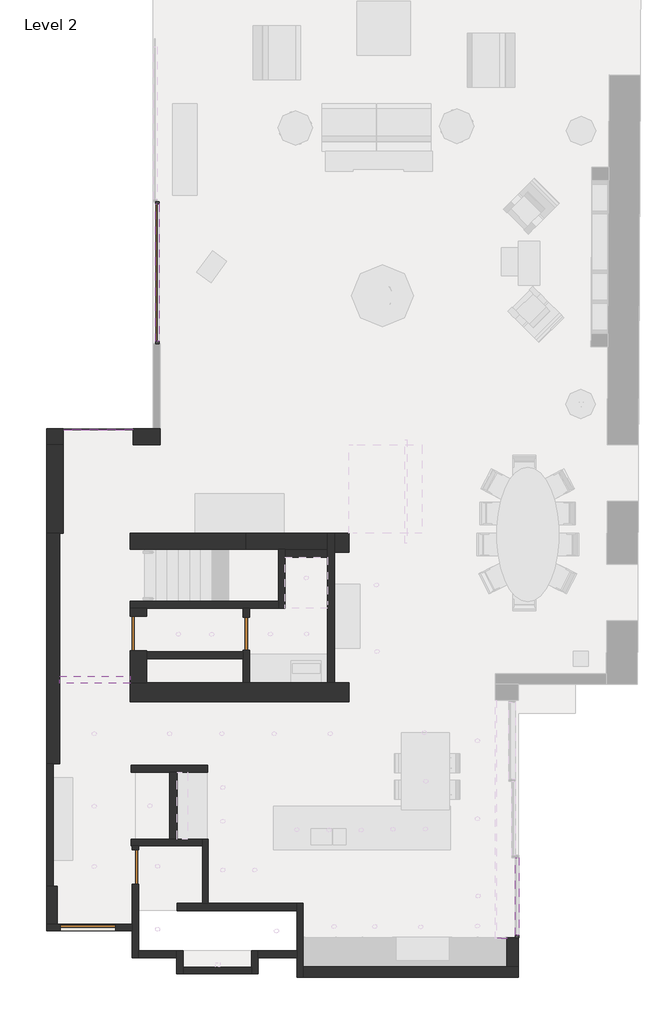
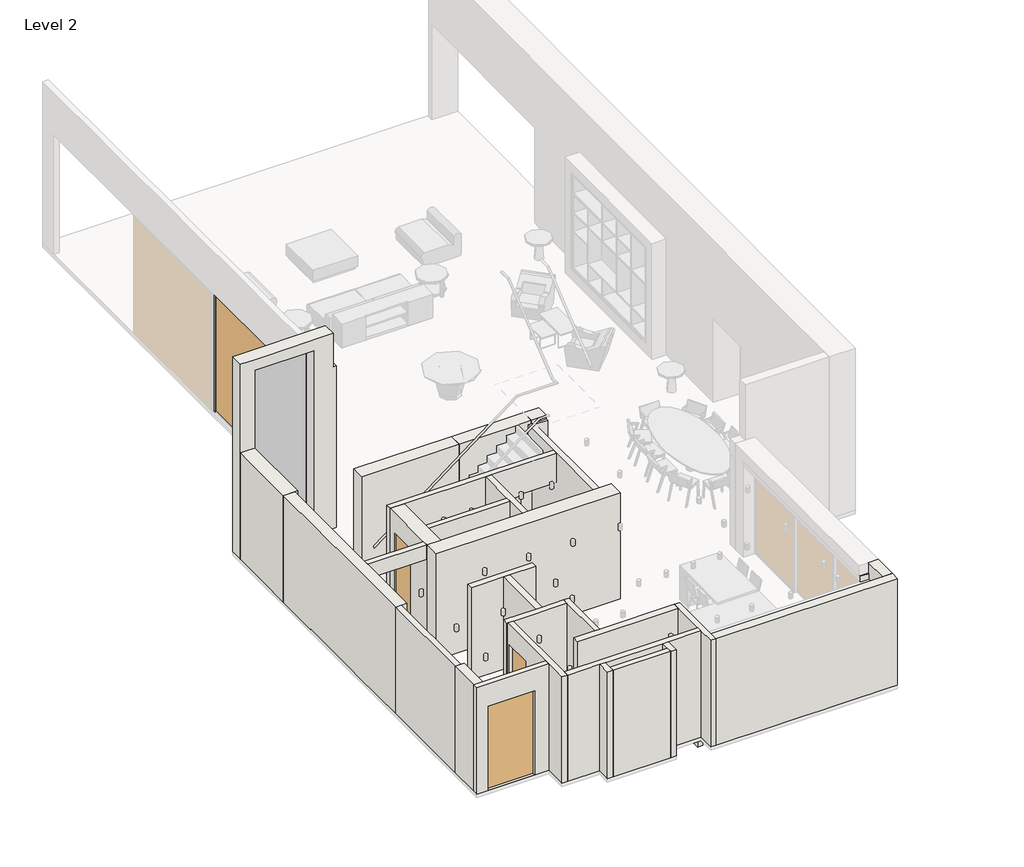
# One storey, part 1 of 3: 32 walls, 9 members, 5 doors, 1 plate.
"""IFC4 building model written with IfcOpenShell, lengths in millimetres."""

from ifc_helpers import new_model, si_unit, frame, origin, place, context, project, spatial, polyline, outline, extrude, faceted_brep, transform, mapped, element, save
from components import door_01_type_3_5bbf0297, door_01_type_4_ac3d37d8, door_01_type_4_c44ae645, door_01_type_5_4e000384, door_curtain_02_door_curtain_02_b25e94dd, rectangular_mullion_5_x_5mm_b523a144, rectangular_mullion_5_x_5mm_49b36daa, rectangular_mullion_50_x_80mm_7a5850f5, rectangular_mullion_50_x_80mm_e20e2da3, rectangular_mullion_50_x_80mm_d9664e05, rectangular_mullion_50_x_80mm_6cbf759c, system_panel_glazed_2_725f9dae

model = new_model("IFC4")

# Units and contexts
model_context = context("Model", 3, world=origin())
ifc_project = project(units=[si_unit("LENGTHUNIT", "METRE", prefix="MILLI")], contexts=[model_context])

# Site, building, storey
site = spatial("IfcSite", under=ifc_project)
building = spatial("IfcBuilding", under=site)
storey = spatial("IfcBuildingStorey", under=building, Name="Level 2", Elevation=3400.0)

# Doors
placement = place(None, origin())
door_01_type_3_shape = door_01_type_3_5bbf0297(model_context)
element("IfcDoor", 1, ObjectType="Door_01 : Type 3", at=placement, inside=storey, context=model_context, shape_type="MappedRepresentation", body=[
    mapped(door_01_type_3_shape, transform((-6950.5022204, -294.4801931, 3400.2529743), x_axis=(-1.0, 0.0, 0.0), y_axis=(0.0, -1.0, 0.0), z_axis=(0.0, 0.0, 1.0))),
])
door_01_type_4_shape = door_01_type_4_ac3d37d8(model_context)
element("IfcDoor", 2, ObjectType="Door_01 : Type 4", at=placement, inside=storey, context=model_context, shape_type="MappedRepresentation", body=[
    mapped(door_01_type_4_shape, transform((-5878.0019919, 1070.5198069, 3400.0), x_axis=(0.0, 1.0, 0.0), y_axis=(-1.0, 0.0, 0.0), z_axis=(0.0, 0.0, 1.0))),
])
door_01_type_4_2_shape = door_01_type_4_c44ae645(model_context)
element("IfcDoor", 3, ObjectType="Door_01 : Type 4", at=placement, inside=storey, context=model_context, shape_type="MappedRepresentation", body=[
    mapped(door_01_type_4_2_shape, transform((-5810.1989418, 6333.2374199, 3400.0), x_axis=(0.0, -1.0, 0.0), y_axis=(1.0, 0.0, 0.0), z_axis=(0.0, 0.0, 1.0))),
])
door_01_type_5_shape = door_01_type_5_4e000384(model_context)
element("IfcDoor", 4, ObjectType="Door_01 : Type 5", at=placement, inside=storey, context=model_context, shape_type="MappedRepresentation", body=[
    mapped(door_01_type_5_shape, transform((-3369.969965, 6328.2374199, 3400.0), x_axis=(0.0, -1.0, 0.0), y_axis=(1.0, 0.0, 0.0), z_axis=(0.0, 0.0, 1.0))),
])
door_curtain_02_door_curtain_02_shape = door_curtain_02_door_curtain_02_b25e94dd(model_context)
element("IfcDoor", 5, ObjectType="Door_Curtain_02 : Door_Curtain_02", at=placement, inside=storey, context=model_context, shape_type="MappedRepresentation", body=[
    mapped(door_curtain_02_door_curtain_02_shape, transform((-5394.2035042, 14468.8264883, 3450.0), x_axis=(0.0, -1.0, 0.0), y_axis=(1.0, 0.0, 0.0), z_axis=(0.0, 0.0, 1.0))),
])

# Members
rectangular_mullion_5_x_5mm_shape = rectangular_mullion_5_x_5mm_b523a144(model_context)
element("IfcMember", 6, ObjectType="Rectangular Mullion : 5 x 5mm", at=placement, inside=storey, context=model_context, shape_type="MappedRepresentation", body=[
    mapped(rectangular_mullion_5_x_5mm_shape, transform((-7495.5019919, 10928.8264883, 3400.0), x_axis=(0.0, 0.0, -1.0), y_axis=(0.0, -1.0, 0.0), z_axis=(-1.0, 0.0, 0.0))),
])
element("IfcMember", 7, ObjectType="Rectangular Mullion : 5 x 5mm", at=placement, inside=storey, context=model_context, shape_type="MappedRepresentation", body=[
    mapped(rectangular_mullion_5_x_5mm_shape, transform((-5925.5019919, 10928.8264883, 8608.580519), x_axis=(0.0, 0.0, 1.0), y_axis=(0.0, -1.0, 0.0), z_axis=(1.0, 0.0, 0.0))),
])
rectangular_mullion_5_x_5mm_2_shape = rectangular_mullion_5_x_5mm_49b36daa(model_context)
element("IfcMember", 8, ObjectType="Rectangular Mullion : 5 x 5mm", at=placement, inside=storey, context=model_context, shape_type="MappedRepresentation", body=[
    mapped(rectangular_mullion_5_x_5mm_2_shape, transform((-7500.5019919, 10928.8264883, 8608.580519), x_axis=(-1.0, 0.0, 0.0), y_axis=(0.0, -1.0, 0.0), z_axis=(0.0, 0.0, 1.0))),
])
element("IfcMember", 9, ObjectType="Rectangular Mullion : 5 x 5mm", at=placement, inside=storey, context=model_context, shape_type="MappedRepresentation", body=[
    mapped(rectangular_mullion_5_x_5mm_2_shape, transform((-5920.5019919, 10928.8264883, 3400.0), x_axis=(1.0, 0.0, 0.0), y_axis=(0.0, -1.0, 0.0), z_axis=(0.0, 0.0, -1.0))),
])
rectangular_mullion_50_x_80mm_shape = rectangular_mullion_50_x_80mm_7a5850f5(model_context)
element("IfcMember", 10, ObjectType="Rectangular Mullion : 50 x 80mm", at=placement, inside=storey, context=model_context, shape_type="MappedRepresentation", body=[
    mapped(rectangular_mullion_50_x_80mm_shape, transform((2718.0901674, -471.7032002, 6115.0), x_axis=(0.0, 0.0, 1.0), y_axis=(-1.0, 0.0, 0.0), z_axis=(0.0, -1.0, 0.0))),
])
rectangular_mullion_50_x_80mm_2_shape = rectangular_mullion_50_x_80mm_e20e2da3(model_context)
element("IfcMember", 11, ObjectType="Rectangular Mullion : 50 x 80mm", at=placement, inside=storey, context=model_context, shape_type="MappedRepresentation", body=[
    mapped(rectangular_mullion_50_x_80mm_2_shape, transform((-5394.2035042, 12918.8264883, 6771.3320339), x_axis=(0.0, 0.0, 1.0), y_axis=(-1.0, 0.0, 0.0), z_axis=(0.0, -1.0, 0.0))),
])
rectangular_mullion_50_x_80mm_3_shape = rectangular_mullion_50_x_80mm_d9664e05(model_context)
element("IfcMember", 12, ObjectType="Rectangular Mullion : 50 x 80mm", at=placement, inside=storey, context=model_context, shape_type="MappedRepresentation", body=[
    mapped(rectangular_mullion_50_x_80mm_3_shape, transform((-5394.2035042, 16068.8264883, 6771.3320339), x_axis=(0.0, 1.0, 0.0), y_axis=(-1.0, 0.0, 0.0), z_axis=(0.0, 0.0, 1.0))),
])
element("IfcMember", 13, ObjectType="Rectangular Mullion : 50 x 80mm", at=placement, inside=storey, context=model_context, shape_type="MappedRepresentation", body=[
    mapped(rectangular_mullion_50_x_80mm_3_shape, transform((-5394.2035042, 12868.8264883, 3400.0), x_axis=(0.0, -1.0, 0.0), y_axis=(-1.0, 0.0, 0.0), z_axis=(0.0, 0.0, -1.0))),
])
rectangular_mullion_50_x_80mm_4_shape = rectangular_mullion_50_x_80mm_6cbf759c(model_context)
element("IfcMember", 14, ObjectType="Rectangular Mullion : 50 x 80mm", at=placement, inside=storey, context=model_context, shape_type="MappedRepresentation", body=[
    mapped(rectangular_mullion_50_x_80mm_4_shape, transform((2718.0901674, -521.7032002, 3400.0), x_axis=(0.0, -1.0, 0.0), y_axis=(-1.0, 0.0, 0.0), z_axis=(0.0, 0.0, -1.0))),
])

# Plate
system_panel_glazed_2_shape = system_panel_glazed_2_725f9dae(model_context)
element("IfcPlate", 15, ObjectType="System Panel : Glazed 2", at=placement, inside=storey, context=model_context, shape_type="MappedRepresentation", body=[
    mapped(system_panel_glazed_2_shape, transform((-6710.5019919, 10928.8264883, 3405.0), x_axis=(1.0, 0.0, 0.0), y_axis=(0.0, 1.0, 0.0), z_axis=(0.0, 0.0, 1.0))),
])

# Walls
element("IfcWall", 16, ObjectType="Generic - Ext 140mm", at=placement, inside=storey, context=model_context, shape_type="Brep", body=[
    faceted_brep([(-2093.0019919, 255.8787458, 6410.0), (-2093.0019919, -1181.1735117, 6410.0), (-2093.0019919, -1421.1735117, 6410.0), (-2093.0019919, -1421.1735117, 3400.0), (-2093.0019919, -1181.1735117, 3400.0), (-2093.0019919, -897.9532002, 3400.0), (-2093.0019919, -897.9532002, 3300.0), (-2093.0019919, -822.9532002, 3300.0), (-2093.0019919, -822.9532002, 3029.4421358), (-2093.0019919, 255.8787458, 3029.4421358), (-2233.0019919, -1421.1735117, 6410.0), (-2233.0019919, -972.9532002, 6410.0), (-2233.0019919, -822.9532002, 6410.0), (-2233.0019919, 85.8787458, 6410.0), (-2233.0019919, 255.8787458, 6410.0), (-2233.0019919, 255.8787458, 3400.0), (-2233.0019919, 255.8787458, 3029.4421358), (-2233.0019919, -822.9532002, 3029.4421358), (-2233.0019919, -822.9532002, 3300.0), (-2233.0019919, -897.9532002, 3300.0), (-2233.0019919, -897.9532002, 3400.0), (-2233.0019919, -972.9532002, 3400.0), (-2233.0019919, -1421.1735117, 3400.0)], [[[0, 1, 2, 3, 4, 5, 6, 7, 8, 9]], [[10, 11, 12, 13, 14, 15, 16, 17, 18, 19, 20, 21, 22]], [[0, 9, 16, 15, 14]], [[3, 2, 10, 22]], [[7, 18, 17, 8]], [[18, 7, 6, 19]], [[16, 9, 8, 17]], [[2, 1, 0, 14, 13, 12, 11, 10]], [[5, 4, 3, 22, 21, 20]], [[5, 20, 19, 6]]]),
])
element("IfcWall", 17, ObjectType="Generic - Ext 150mm", at=placement, inside=storey, context=model_context, shape_type="Brep", body=[
    faceted_brep([(-5953.0019919, -972.9532002, 6410.0), (-5953.0019919, -369.4801931, 6410.0), (-5953.0019919, -219.4801931, 6410.0), (-5953.0019919, 1545.5198069, 6410.0), (-5953.0019919, 1545.5198069, 6000.0), (-5953.0019919, 1545.5198069, 5950.0), (-5953.0019919, 1545.5198069, 3400.0), (-5953.0019919, 1460.5198069, 3400.0), (-5953.0019919, 1460.5198069, 5850.0), (-5953.0019919, 680.5198069, 5850.0), (-5953.0019919, 680.5198069, 3400.0), (-5953.0019919, -219.4801931, 3400.0), (-5953.0019919, -369.4801931, 3400.0), (-5953.0019919, -972.9532002, 3400.0), (-5803.0019919, 1545.5198069, 6410.0), (-5803.0019919, -822.9532002, 6410.0), (-5803.0019919, -972.9532002, 6410.0), (-5803.0019919, -972.9532002, 3400.0), (-5803.0019919, -822.9532002, 3400.0), (-5803.0019919, 680.5198069, 3400.0), (-5803.0019919, 680.5198069, 5850.0), (-5803.0019919, 1460.5198069, 5850.0), (-5803.0019919, 1460.5198069, 3400.0), (-5803.0019919, 1545.5198069, 3400.0), (-5803.0019919, 1545.5198069, 5950.0), (-5803.0019919, 1545.5198069, 6000.0)], [[[0, 1, 2, 3, 4, 5, 6, 7, 8, 9, 10, 11, 12, 13]], [[14, 15, 16, 17, 18, 19, 20, 21, 22, 23, 24, 25]], [[17, 13, 12, 11, 10, 19, 18]], [[6, 23, 22, 7]], [[3, 2, 1, 0, 16, 15, 14]], [[0, 13, 17, 16]], [[3, 14, 25, 24, 23, 6, 5, 4]], [[21, 8, 7, 22]], [[8, 21, 20, 9]], [[9, 20, 19, 10]]]),
])
element("IfcWall", 18, ObjectType="Generic - Ext 150mm", at=placement, inside=storey, context=model_context, shape_type="Brep", body=[
    faceted_brep([(-5803.0019919, -972.9532002, 3400.0), (-4945.5019919, -972.9532002, 3400.0), (-4945.5019919, -972.9532002, 6000.0), (-4795.5019919, -972.9532002, 6000.0), (-3258.0019919, -972.9532002, 6000.0), (-3108.0019919, -972.9532002, 6000.0), (-3108.0019919, -972.9532002, 3400.0), (-2233.0019919, -972.9532002, 3400.0), (-2233.0019919, -972.9532002, 6410.0), (-3108.0019919, -972.9532002, 6410.0), (-3258.0019919, -972.9532002, 6410.0), (-4795.5019919, -972.9532002, 6410.0), (-4945.5019919, -972.9532002, 6410.0), (-5803.0019919, -972.9532002, 6410.0), (-5803.0019919, -822.9532002, 3400.0), (-5803.0019919, -822.9532002, 6410.0), (-2233.0019919, -822.9532002, 6410.0), (-2233.0019919, -822.9532002, 3400.0), (-3108.0019919, -822.9532002, 3400.0), (-3108.0019919, -822.9532002, 6000.0), (-3258.0019919, -822.9532002, 6000.0), (-4795.5019919, -822.9532002, 6000.0), (-4945.5019919, -822.9532002, 6000.0), (-4945.5019919, -822.9532002, 3400.0), (-2233.0019919, -897.9532002, 3400.0)], [[[0, 1, 2, 3, 4, 5, 6, 7, 8, 9, 10, 11, 12, 13]], [[14, 15, 16, 17, 18, 19, 20, 21, 22, 23]], [[0, 13, 15, 14]], [[1, 0, 14, 23]], [[13, 12, 11, 10, 9, 8, 16, 15]], [[5, 4, 3, 2, 22, 21, 20, 19]], [[7, 6, 18, 17, 24]], [[6, 5, 19, 18]], [[2, 1, 23, 22]], [[8, 7, 24, 17, 16]]]),
])
element("IfcWall", 19, ObjectType="Generic - Ext 150mm", at=placement, inside=storey, context=model_context, shape_type="Brep", body=[
    faceted_brep([(-4945.5019919, -822.9532002, 3400.0), (-4945.5019919, -972.9532002, 3400.0), (-4945.5019919, -1339.4801931, 3400.0), (-4945.5019919, -1339.4801931, 6410.0), (-4945.5019919, -972.9532002, 6410.0), (-4945.5019919, -972.9532002, 6000.0), (-4945.5019919, -822.9532002, 6000.0), (-4795.5019919, -822.9532002, 3400.0), (-4795.5019919, -822.9532002, 6000.0), (-4795.5019919, -972.9532002, 6000.0), (-4795.5019919, -972.9532002, 6410.0), (-4795.5019919, -1189.4801931, 6410.0), (-4795.5019919, -1339.4801931, 6410.0), (-4795.5019919, -1339.4801931, 3400.0), (-4795.5019919, -1189.4801931, 3400.0)], [[[0, 1, 2, 3, 4, 5, 6]], [[7, 8, 9, 10, 11, 12, 13, 14]], [[2, 1, 0, 7, 14, 13]], [[4, 3, 12, 11, 10]], [[3, 2, 13, 12]], [[5, 9, 8, 6]], [[0, 6, 8, 7]], [[5, 4, 10, 9]]]),
])
element("IfcWall", 20, ObjectType="Generic - Ext 150mm", at=placement, inside=storey, context=model_context, shape_type="Brep", body=[
    faceted_brep([(-5953.0019919, -219.4801931, 3400.0), (-7640.5019919, -219.4801931, 3400.0), (-7880.5019919, -219.4801931, 3400.0), (-7880.5019919, -219.4801931, 6410.0), (-7640.5019919, -219.4801931, 6410.0), (-5953.0019919, -219.4801931, 6410.0), (-7575.5022204, -219.4801931, 5780.2529743), (-7575.5022204, -219.4801931, 3400.2529743), (-6325.5022204, -219.4801931, 3400.2529743), (-6325.5022204, -219.4801931, 5780.2529743), (-7880.5019919, -369.4801931, 3400.0), (-5953.0019919, -369.4801931, 3400.0), (-5953.0019919, -369.4801931, 6410.0), (-7880.5019919, -369.4801931, 6410.0), (-7575.5022204, -369.4801931, 3400.2529743), (-7575.5022204, -369.4801931, 5780.2529743), (-6325.5022204, -369.4801931, 5780.2529743), (-6325.5022204, -369.4801931, 3400.2529743)], [[[0, 1, 2, 3, 4, 5], [6, 7, 8, 9]], [[10, 11, 12, 13], [14, 15, 16, 17]], [[2, 1, 0, 11, 10]], [[5, 4, 3, 13, 12]], [[0, 5, 12, 11]], [[3, 2, 10, 13]], [[14, 7, 6, 15]], [[15, 6, 9, 16]], [[16, 9, 8, 17]], [[7, 14, 17, 8]]]),
])
element("IfcWall", 21, ObjectType="Generic - Ext 150mm", at=placement, inside=storey, context=model_context, shape_type="SweptSolid", body=[
    extrude(outline(polyline([(-7730.5019919, 3395.5198069), (-7730.5019919, 635.5198069), (-7880.5019919, 635.5198069), (-7880.5019919, 3395.5198069), (-7730.5019919, 3395.5198069)])), frame((0.0, 0.0, 3400.0), z_axis=(0.0, 0.0, 1.0), x_axis=(1.0, 0.0, 0.0)), (0.0, 0.0, 1.0), 3010.0),
])
element("IfcWall", 22, ObjectType="Generic - Ext 150mm", at=placement, inside=storey, context=model_context, shape_type="SweptSolid", body=[
    extrude(outline(polyline([(-3258.0019919, -1339.4801931), (-4795.5019919, -1339.4801931), (-4795.5019919, -1189.4801931), (-3258.0019919, -1189.4801931), (-3258.0019919, -1339.4801931)])), frame((0.0, 0.0, 3400.0), z_axis=(0.0, 0.0, 1.0), x_axis=(1.0, 0.0, 0.0)), (0.0, 0.0, 1.0), 3010.0),
])
element("IfcWall", 23, ObjectType="Generic - Ext 150mm", at=placement, inside=storey, context=model_context, shape_type="Brep", body=[
    faceted_brep([(-3108.0019919, -1339.4801931, 3400.0), (-3108.0019919, -972.9532002, 3400.0), (-3108.0019919, -822.9532002, 3400.0), (-3108.0019919, -822.9532002, 6000.0), (-3108.0019919, -972.9532002, 6000.0), (-3108.0019919, -972.9532002, 6410.0), (-3108.0019919, -1339.4801931, 6410.0), (-3258.0019919, -1339.4801931, 3400.0), (-3258.0019919, -1339.4801931, 6410.0), (-3258.0019919, -1189.4801931, 6410.0), (-3258.0019919, -972.9532002, 6410.0), (-3258.0019919, -972.9532002, 6000.0), (-3258.0019919, -822.9532002, 6000.0), (-3258.0019919, -822.9532002, 3400.0), (-3258.0019919, -1189.4801931, 3400.0)], [[[0, 1, 2, 3, 4, 5, 6]], [[7, 8, 9, 10, 11, 12, 13, 14]], [[2, 1, 0, 7, 14, 13]], [[6, 5, 10, 9, 8]], [[0, 6, 8, 7]], [[11, 4, 3, 12]], [[3, 2, 13, 12]], [[5, 4, 11, 10]]]),
])
element("IfcWall", 24, ObjectType="Generic - Ext 240mm", at=placement, inside=storey, context=model_context, shape_type="Brep", body=[
    faceted_brep([(-7640.5019919, -219.4801931, 3400.0), (-7640.5019919, 635.5198069, 3400.0), (-7640.5019919, 635.5198069, 6410.0), (-7640.5019919, -219.4801931, 6410.0), (-7880.5019919, -219.4801931, 3400.0), (-7880.5019919, -219.4801931, 6410.0), (-7880.5019919, 635.5198069, 6410.0), (-7880.5019919, 635.5198069, 3400.0), (-7730.5019919, 635.5198069, 3400.0), (-7730.5019919, 635.5198069, 6410.0)], [[[0, 1, 2, 3]], [[4, 5, 6, 7]], [[1, 0, 4, 7, 8]], [[2, 1, 8, 7, 6, 9]], [[3, 2, 9, 6, 5]], [[0, 3, 5, 4]]]),
])
element("IfcWall", 25, ObjectType="Generic - Ext 240mm", at=placement, inside=storey, context=model_context, shape_type="Brep", body=[
    faceted_brep([(2763.0901674, -1181.1735117, 3400.0), (2503.0901674, -1181.1735117, 3400.0), (-2093.0019919, -1181.1735117, 3400.0), (-2093.0019919, -1181.1735117, 6410.0), (2503.0901674, -1181.1735117, 6410.0), (2763.0901674, -1181.1735117, 6410.0), (2763.0901674, -1421.1735117, 3400.0), (2763.0901674, -1421.1735117, 6410.0), (-2093.0019919, -1421.1735117, 6410.0), (-2093.0019919, -1421.1735117, 3400.0)], [[[0, 1, 2, 3, 4, 5]], [[6, 7, 8, 9]], [[2, 1, 0, 6, 9]], [[5, 4, 3, 8, 7]], [[3, 2, 9, 8]], [[0, 5, 7, 6]]]),
])
element("IfcWall", 26, ObjectType="Generic - Ext 260mm", at=placement, inside=storey, context=model_context, shape_type="Brep", body=[
    faceted_brep([(2503.0901674, -521.7032002, 3400.0), (2503.0901674, -1181.1735117, 3400.0), (2503.0901674, -1181.1735117, 6410.0), (2503.0901674, -521.7032002, 6410.0), (2763.0901674, -521.7032002, 3400.0), (2763.0901674, -521.7032002, 6115.0), (2763.0901674, -521.7032002, 6410.0), (2763.0901674, -1181.1735117, 6410.0), (2763.0901674, -1181.1735117, 3400.0)], [[[0, 1, 2, 3]], [[4, 5, 6, 7, 8]], [[1, 0, 4, 8]], [[3, 2, 7, 6]], [[0, 3, 6, 5, 4]], [[2, 1, 8, 7]]]),
])
element("IfcWall", 27, ObjectType="Generic - Ext 300mm", at=placement, inside=storey, context=model_context, shape_type="Brep", body=[
    faceted_brep([(-7580.5019919, 3395.5198069, 3400.0), (-7580.5019919, 8595.5198069, 3400.0), (-7580.5019919, 8595.5198069, 6410.0), (-7580.5019919, 5365.5198069, 6410.0), (-7580.5019919, 5215.5198069, 6410.0), (-7580.5019919, 3395.5198069, 6410.0), (-7880.5019919, 3395.5198069, 3400.0), (-7880.5019919, 3395.5198069, 6410.0), (-7880.5019919, 5365.5198069, 6410.0), (-7880.5019919, 8595.5198069, 6410.0), (-7880.5019919, 8595.5198069, 3400.0), (-7730.5019919, 3395.5198069, 3400.0), (-7730.5019919, 3395.5198069, 6410.0)], [[[0, 1, 2, 3, 4, 5]], [[6, 7, 8, 9, 10]], [[1, 0, 11, 6, 10]], [[2, 1, 10, 9]], [[5, 4, 3, 2, 9, 8, 7, 12]], [[0, 5, 12, 7, 6, 11]]]),
])
element("IfcWall", 28, ObjectType="Generic - Ext 360mm", at=placement, inside=storey, context=model_context, shape_type="Brep", body=[
    faceted_brep([(-5394.2035042, 10588.8264883, 8915.0), (-7500.5019919, 10588.8264883, 8915.0), (-7880.5019919, 10588.8264883, 8915.0), (-7880.5019919, 10588.8264883, 6410.0), (-7880.5019919, 10588.8264883, 3400.0), (-7500.5019919, 10588.8264883, 3400.0), (-7500.5019919, 10588.8264883, 6410.0), (-7500.5019919, 10588.8264883, 8608.580519), (-5920.5019919, 10588.8264883, 8608.580519), (-5920.5019919, 10588.8264883, 3400.0), (-5319.2035042, 10588.8264883, 3400.0), (-5319.2035042, 10588.8264883, 7375.0), (-5319.2035042, 10588.8264883, 7980.0), (-5394.2035042, 10588.8264883, 7980.0), (-5394.2035042, 10588.8264883, 8898.9949825), (-7880.5019919, 10948.8264883, 8915.0), (-5394.2035042, 10948.8264883, 8915.0), (-5394.2035042, 10948.8264883, 8898.9949825), (-5394.2035042, 10948.8264883, 8080.0), (-5394.2035042, 10948.8264883, 7980.0), (-5319.2035042, 10948.8264883, 7980.0), (-5319.2035042, 10948.8264883, 3400.0), (-5469.2035042, 10948.8264883, 3400.0), (-5920.5019919, 10948.8264883, 3400.0), (-5920.5019919, 10948.8264883, 8608.580519), (-7500.5019919, 10948.8264883, 8608.580519), (-7500.5019919, 10948.8264883, 3400.0), (-7880.5019919, 10948.8264883, 3400.0), (-5394.2035042, 10738.8264883, 7980.0), (-5319.2035042, 10738.8264883, 7980.0)], [[[0, 1, 2, 3, 4, 5, 6, 7, 8, 9, 10, 11, 12, 13, 14]], [[15, 16, 17, 18, 19, 20, 21, 22, 23, 24, 25, 26, 27]], [[21, 10, 9, 23, 22]], [[4, 27, 26, 5]], [[2, 1, 0, 16, 15]], [[27, 4, 3, 2, 15]], [[16, 0, 14, 13, 28, 19, 18, 17]], [[19, 28, 13, 12, 29, 20]], [[10, 21, 20, 29, 12, 11]], [[25, 7, 6, 5, 26]], [[7, 25, 24, 8]], [[8, 24, 23, 9]]]),
])
element("IfcWall", 29, ObjectType="Generic - Ext 380mm", at=placement, inside=storey, context=model_context, shape_type="Brep", body=[
    faceted_brep([(-7500.5019919, 8595.5198069, 3400.0), (-7500.5019919, 10588.8264883, 3400.0), (-7500.5019919, 10588.8264883, 6410.0), (-7500.5019919, 8595.5198069, 6410.0), (-7880.5019919, 8595.5198069, 3400.0), (-7880.5019919, 8595.5198069, 6410.0), (-7880.5019919, 10588.8264883, 6410.0), (-7880.5019919, 10588.8264883, 3400.0), (-7580.5019919, 8595.5198069, 3400.0), (-7580.5019919, 8595.5198069, 6410.0)], [[[0, 1, 2, 3]], [[4, 5, 6, 7]], [[1, 0, 8, 4, 7]], [[3, 2, 6, 5, 9]], [[0, 3, 9, 5, 4, 8]], [[2, 1, 7, 6]]]),
])
element("IfcWall", 30, ObjectType="Generic - Int 130mm", at=placement, inside=storey, context=model_context, shape_type="Brep", body=[
    faceted_brep([(-4233.0019919, 255.8787458, 3400.0), (-4233.0019919, 1695.5198069, 3400.0), (-4233.0019919, 1695.5198069, 6410.0), (-4233.0019919, 255.8787458, 6410.0), (-4363.0019919, 255.8787458, 3400.0), (-4363.0019919, 255.8787458, 6410.0), (-4363.0019919, 1545.5198069, 6410.0), (-4363.0019919, 1695.5198069, 6410.0), (-4363.0019919, 1695.5198069, 3400.0), (-4363.0019919, 1545.5198069, 3400.0)], [[[0, 1, 2, 3]], [[4, 5, 6, 7, 8, 9]], [[1, 0, 4, 9, 8]], [[3, 2, 7, 6, 5]], [[0, 3, 5, 4]], [[2, 1, 8, 7]]]),
])
element("IfcWall", 31, ObjectType="Generic - Int 150mm", at=placement, inside=storey, context=model_context, shape_type="Brep", body=[
    faceted_brep([(-4363.0019919, 1695.5198069, 3400.0), (-4938.0019919, 1695.5198069, 3400.0), (-5098.0019919, 1695.5198069, 3400.0), (-5973.0019919, 1695.5198069, 3400.0), (-5973.0019919, 1695.5198069, 6410.0), (-5098.0019919, 1695.5198069, 6410.0), (-4938.0019919, 1695.5198069, 6410.0), (-4363.0019919, 1695.5198069, 6410.0), (-4363.0019919, 1545.5198069, 3400.0), (-4363.0019919, 1545.5198069, 6410.0), (-5803.0019919, 1545.5198069, 6410.0), (-5953.0019919, 1545.5198069, 6410.0), (-5973.0019919, 1545.5198069, 6410.0), (-5973.0019919, 1545.5198069, 3400.0), (-5953.0019919, 1545.5198069, 3400.0), (-5803.0019919, 1545.5198069, 3400.0)], [[[0, 1, 2, 3, 4, 5, 6, 7]], [[8, 9, 10, 11, 12, 13, 14, 15]], [[3, 2, 1, 0, 8, 15, 14, 13]], [[4, 3, 13, 12]], [[7, 6, 5, 4, 12, 11, 10, 9]], [[0, 7, 9, 8]]]),
])
element("IfcWall", 32, ObjectType="Generic - Int 150mm", at=placement, inside=storey, context=model_context, shape_type="Brep", body=[
    faceted_brep([(-2647.6989418, 8228.2374199, 3400.0), (-2647.6989418, 7058.2374199, 3400.0), (-2647.6989418, 6908.2374199, 3400.0), (-2647.6989418, 6908.2374199, 5537.4058339), (-2647.6989418, 7058.2374199, 5537.4058339), (-2647.6989418, 8228.2374199, 5537.4058339), (-2497.6989418, 8228.2374199, 3400.0), (-2497.6989418, 8228.2374199, 5537.4058339), (-2497.6989418, 6908.2374199, 5537.4058339), (-2497.6989418, 6908.2374199, 3400.0), (-2497.6989418, 8048.2374199, 3400.0)], [[[0, 1, 2, 3, 4, 5]], [[6, 7, 8, 9, 10]], [[2, 1, 0, 6, 10, 9]], [[5, 4, 3, 8, 7]], [[0, 5, 7, 6]], [[3, 2, 9, 8]]]),
])
element("IfcWall", 33, ObjectType="Generic - Int 150mm", at=placement, inside=storey, context=model_context, shape_type="Brep", body=[
    faceted_brep([(-2647.6989418, 7058.2374199, 3400.0), (-5997.6989418, 7058.2374199, 3400.0), (-5997.6989418, 7058.2374199, 6410.0), (-1877.6989418, 7058.2374199, 6410.0), (-1542.6989418, 7058.2374199, 6410.0), (-1542.6989418, 7058.2374199, 5587.4058339), (-2497.6989418, 7058.2374199, 5587.4058339), (-2497.6989418, 7058.2374199, 5537.4058339), (-2647.6989418, 7058.2374199, 5537.4058339), (-5997.6989418, 6908.2374199, 3400.0), (-5622.6989418, 6908.2374199, 3400.0), (-3444.969965, 6908.2374199, 3400.0), (-3294.969965, 6908.2374199, 3400.0), (-2647.6989418, 6908.2374199, 3400.0), (-2647.6989418, 6908.2374199, 5537.4058339), (-2497.6989418, 6908.2374199, 5537.4058339), (-2497.6989418, 6908.2374199, 5587.4058339), (-1542.6989418, 6908.2374199, 5587.4058339), (-1542.6989418, 6908.2374199, 6410.0), (-3294.969965, 6908.2374199, 6410.0), (-3444.969965, 6908.2374199, 6410.0), (-5622.6989418, 6908.2374199, 6410.0), (-5997.6989418, 6908.2374199, 6410.0)], [[[0, 1, 2, 3, 4, 5, 6, 7, 8]], [[9, 10, 11, 12, 13, 14, 15, 16, 17, 18, 19, 20, 21, 22]], [[2, 1, 9, 22]], [[1, 0, 13, 12, 11, 10, 9]], [[4, 3, 2, 22, 21, 20, 19, 18]], [[4, 18, 17, 5]], [[14, 8, 7, 15]], [[0, 8, 14, 13]], [[16, 6, 5, 17]], [[6, 16, 15, 7]]]),
])
element("IfcWall", 34, ObjectType="Generic - Int 150mm", at=placement, inside=storey, context=model_context, shape_type="Brep", body=[
    faceted_brep([(-7580.5019919, 5365.5198069, 6410.0), (-5997.6989418, 5365.5198069, 6410.0), (-5997.6989418, 5365.5198069, 6000.0), (-7580.5019919, 5365.5198069, 6000.0), (-5997.6989418, 5215.5198069, 6410.0), (-7580.5019919, 5215.5198069, 6410.0), (-7580.5019919, 5215.5198069, 6000.0), (-5997.6989418, 5215.5198069, 6000.0), (-5997.6989418, 5218.2374199, 6410.0)], [[[0, 1, 2, 3]], [[4, 5, 6, 7]], [[1, 0, 5, 4, 8]], [[5, 0, 3, 6]], [[1, 8, 4, 7, 2]], [[3, 2, 7, 6]]]),
])
element("IfcWall", 35, ObjectType="Generic - Int 150mm", at=placement, inside=storey, context=model_context, shape_type="Brep", body=[
    faceted_brep([(-3444.969965, 5218.2374199, 6410.0), (-3444.969965, 5768.2374199, 6410.0), (-3444.969965, 5918.2374199, 6410.0), (-3444.969965, 6908.2374199, 6410.0), (-3444.969965, 6908.2374199, 3400.0), (-3444.969965, 6698.2374199, 3400.0), (-3444.969965, 6698.2374199, 5820.0), (-3444.969965, 5958.2374199, 5820.0), (-3444.969965, 5958.2374199, 3400.0), (-3444.969965, 5918.2374199, 3400.0), (-3444.969965, 5768.2374199, 3400.0), (-3444.969965, 5218.2374199, 3400.0), (-3294.969965, 6908.2374199, 6410.0), (-3294.969965, 5218.2374199, 6410.0), (-3294.969965, 5218.2374199, 3400.0), (-3294.969965, 5958.2374199, 3400.0), (-3294.969965, 5958.2374199, 5820.0), (-3294.969965, 6698.2374199, 5820.0), (-3294.969965, 6698.2374199, 3400.0), (-3294.969965, 6908.2374199, 3400.0)], [[[0, 1, 2, 3, 4, 5, 6, 7, 8, 9, 10, 11]], [[12, 13, 14, 15, 16, 17, 18, 19]], [[4, 19, 18, 5]], [[14, 11, 10, 9, 8, 15]], [[3, 2, 1, 0, 13, 12]], [[7, 16, 15, 8]], [[16, 7, 6, 17]], [[17, 6, 5, 18]], [[11, 14, 13, 0]], [[19, 4, 3, 12]]]),
])
element("IfcWall", 36, ObjectType="Generic - Int 150mm", at=placement, inside=storey, context=model_context, shape_type="SweptSolid", body=[
    extrude(outline(polyline([(-5622.6989418, 5918.2374199), (-3444.969965, 5918.2374199), (-3444.969965, 5768.2374199), (-5622.6989418, 5768.2374199), (-5622.6989418, 5918.2374199)])), frame((0.0, 0.0, 3400.0), z_axis=(0.0, 0.0, 1.0), x_axis=(1.0, 0.0, 0.0)), (0.0, 0.0, 1.0), 3010.0),
])
element("IfcWall", 37, ObjectType="Generic - Int 160mm", at=placement, inside=storey, context=model_context, shape_type="SweptSolid", body=[
    extrude(outline(polyline([(-4938.0019919, 3203.0198069), (-4938.0019919, 1695.5198069), (-5098.0019919, 1695.5198069), (-5098.0019919, 3203.0198069), (-4938.0019919, 3203.0198069)])), frame((0.0, 0.0, 3400.0), z_axis=(0.0, 0.0, 1.0), x_axis=(1.0, 0.0, 0.0)), (0.0, 0.0, 1.0), 3010.0),
])
element("IfcWall", 38, ObjectType="Generic - Int 160mm", at=placement, inside=storey, context=model_context, shape_type="Brep", body=[
    faceted_brep([(-5973.0019919, 3203.0198069, 3400.0), (-5098.0019919, 3203.0198069, 3400.0), (-4938.0019919, 3203.0198069, 3400.0), (-4243.0019919, 3203.0198069, 3400.0), (-4243.0019919, 3203.0198069, 6410.0), (-4938.0019919, 3203.0198069, 6410.0), (-5098.0019919, 3203.0198069, 6410.0), (-5973.0019919, 3203.0198069, 6410.0), (-5973.0019919, 3363.0198069, 3400.0), (-5973.0019919, 3363.0198069, 6410.0), (-4243.0019919, 3363.0198069, 6410.0), (-4243.0019919, 3363.0198069, 3400.0)], [[[0, 1, 2, 3, 4, 5, 6, 7]], [[8, 9, 10, 11]], [[3, 2, 1, 0, 8, 11]], [[4, 3, 11, 10]], [[7, 6, 5, 4, 10, 9]], [[0, 7, 9, 8]]]),
])
element("IfcWall", 39, ObjectType="Generic - Int 160mm", at=placement, inside=storey, context=model_context, shape_type="Brep", body=[
    faceted_brep([(-1382.6989418, 5218.2374199, 3400.0), (-1382.6989418, 8168.2374199, 3400.0), (-1382.6989418, 8588.2374199, 3400.0), (-1382.6989418, 8588.2374199, 6410.0), (-1382.6989418, 8168.2374199, 6410.0), (-1382.6989418, 5218.2374199, 6410.0), (-1542.6989418, 5218.2374199, 3400.0), (-1542.6989418, 5218.2374199, 6410.0), (-1542.6989418, 8228.2374199, 6410.0), (-1542.6989418, 8588.2374199, 6410.0), (-1542.6989418, 8588.2374199, 3400.0), (-1542.6989418, 8228.2374199, 3400.0), (-1542.6989418, 8048.2374199, 3400.0), (-1462.6989418, 8588.2374199, 6410.0)], [[[0, 1, 2, 3, 4, 5]], [[6, 7, 8, 9, 10, 11, 12]], [[2, 1, 0, 6, 12, 11, 10]], [[5, 4, 3, 13, 9, 8, 7]], [[0, 5, 7, 6]], [[2, 10, 9, 13, 3]]]),
])
element("IfcWall", 40, ObjectType="Generic - Int 170mm", at=placement, inside=storey, context=model_context, shape_type="Brep", body=[
    faceted_brep([(-2233.0019919, 255.8787458, 3400.0), (-4233.0019919, 255.8787458, 3400.0), (-4363.0019919, 255.8787458, 3400.0), (-4933.0019919, 255.8787458, 3400.0), (-4933.0019919, 255.8787458, 6410.0), (-4363.0019919, 255.8787458, 6410.0), (-4233.0019919, 255.8787458, 6410.0), (-2233.0019919, 255.8787458, 6410.0), (-2233.0019919, 85.8787458, 3400.0), (-2233.0019919, 85.8787458, 6410.0), (-4933.0019919, 85.8787458, 6410.0), (-4933.0019919, 85.8787458, 3400.0)], [[[0, 1, 2, 3, 4, 5, 6, 7]], [[8, 9, 10, 11]], [[3, 2, 1, 0, 8, 11]], [[4, 3, 11, 10]], [[7, 6, 5, 4, 10, 9]], [[0, 7, 9, 8]]]),
])
element("IfcWall", 41, ObjectType="Generic - Int 180mm", at=placement, inside=storey, context=model_context, shape_type="Brep", body=[
    faceted_brep([(-2497.6989418, 8048.2374199, 3400.0), (-1542.6989418, 8048.2374199, 3400.0), (-1542.6989418, 8048.2374199, 5587.4058339), (-2497.6989418, 8048.2374199, 5587.4058339), (-2497.6989418, 8228.2374199, 3400.0), (-2497.6989418, 8228.2374199, 5537.4058339), (-2497.6989418, 8228.2374199, 5587.4058339), (-1542.6989418, 8228.2374199, 5587.4058339), (-1542.6989418, 8228.2374199, 3400.0)], [[[0, 1, 2, 3]], [[4, 5, 6, 7, 8]], [[1, 0, 4, 8]], [[3, 2, 7, 6]], [[0, 3, 6, 5, 4]], [[2, 1, 8, 7]]]),
])
element("IfcWall", 42, ObjectType="Generic - Int 30mm", at=placement, inside=storey, context=model_context, shape_type="Brep", body=[
    faceted_brep([(2273.0901674, -551.7032002, 5953.0235235), (2503.0901674, -551.7032002, 5953.0235235), (2503.0901674, -551.7032002, 6115.0), (2273.0901674, -551.7032002, 6115.0), (2273.0901674, -551.7032002, 6000.2213825), (2273.0901674, -521.7032002, 5953.0235235), (2273.0901674, -521.7032002, 6115.0), (2503.0901674, -521.7032002, 6115.0), (2503.0901674, -521.7032002, 5953.0235235)], [[[0, 1, 2, 3, 4]], [[5, 6, 7, 8]], [[1, 0, 5, 8]], [[2, 1, 8, 7]], [[3, 2, 7, 6]], [[0, 4, 3, 6, 5]]]),
])
element("IfcWall", 43, ObjectType="Generic - Int 360mm", at=placement, inside=storey, context=model_context, shape_type="Brep", body=[
    faceted_brep([(-1542.6989418, 8588.2374199, 3400.0), (-3392.6989418, 8588.2374199, 3400.0), (-3392.6989418, 8588.2374199, 6510.0), (-1462.6989418, 8588.2374199, 6510.0), (-1462.6989418, 8588.2374199, 6410.0), (-1542.6989418, 8588.2374199, 6410.0), (-3392.6989418, 8228.2374199, 3400.0), (-2647.6989418, 8228.2374199, 3400.0), (-2497.6989418, 8228.2374199, 3400.0), (-1542.6989418, 8228.2374199, 3400.0), (-1542.6989418, 8228.2374199, 5587.4058339), (-1542.6989418, 8228.2374199, 6410.0), (-1462.6989418, 8228.2374199, 6410.0), (-1462.6989418, 8228.2374199, 6510.0), (-1877.6989418, 8228.2374199, 6510.0), (-3392.6989418, 8228.2374199, 6510.0)], [[[0, 1, 2, 3, 4, 5]], [[6, 7, 8, 9, 10, 11, 12, 13, 14, 15]], [[1, 0, 9, 8, 7, 6]], [[2, 1, 6, 15]], [[3, 2, 15, 14, 13]], [[3, 13, 12, 4]], [[4, 12, 11, 5]], [[9, 0, 5, 11, 10]]]),
])
element("IfcWall", 44, ObjectType="Generic - Int 360mm", at=placement, inside=storey, context=model_context, shape_type="SweptSolid", body=[
    extrude(outline(polyline([(-5997.6989418, 8588.2374199), (-3392.6989418, 8588.2374199), (-3392.6989418, 8228.2374199), (-5997.6989418, 8228.2374199), (-5997.6989418, 8588.2374199)])), frame((0.0, 0.0, 3400.0), z_axis=(0.0, 0.0, 1.0), x_axis=(1.0, 0.0, 0.0)), (0.0, 0.0, 1.0), 3110.0),
])
element("IfcWall", 45, ObjectType="Generic - Int 375mm", at=placement, inside=storey, context=model_context, shape_type="Brep", body=[
    faceted_brep([(-5997.6989418, 5218.2374199, 6410.0), (-5997.6989418, 5365.5198069, 6410.0), (-5997.6989418, 6908.2374199, 6410.0), (-5997.6989418, 6908.2374199, 3400.0), (-5997.6989418, 6723.2374199, 3400.0), (-5997.6989418, 6723.2374199, 5850.0), (-5997.6989418, 5943.2374199, 5850.0), (-5997.6989418, 5943.2374199, 3400.0), (-5997.6989418, 5218.2374199, 3400.0), (-5622.6989418, 6908.2374199, 6410.0), (-5622.6989418, 5918.2374199, 6410.0), (-5622.6989418, 5768.2374199, 6410.0), (-5622.6989418, 5218.2374199, 6410.0), (-5622.6989418, 5218.2374199, 3400.0), (-5622.6989418, 5768.2374199, 3400.0), (-5622.6989418, 5918.2374199, 3400.0), (-5622.6989418, 5943.2374199, 3400.0), (-5622.6989418, 5943.2374199, 5850.0), (-5622.6989418, 6723.2374199, 5850.0), (-5622.6989418, 6723.2374199, 3400.0), (-5622.6989418, 6908.2374199, 3400.0)], [[[0, 1, 2, 3, 4, 5, 6, 7, 8]], [[9, 10, 11, 12, 13, 14, 15, 16, 17, 18, 19, 20]], [[13, 8, 7, 16, 15, 14]], [[3, 20, 19, 4]], [[2, 1, 0, 12, 11, 10, 9]], [[3, 2, 9, 20]], [[8, 13, 12, 0]], [[6, 17, 16, 7]], [[17, 6, 5, 18]], [[18, 5, 4, 19]]]),
])
element("IfcWall", 46, ObjectType="Generic - Int 400mm", at=placement, inside=storey, context=model_context, shape_type="Brep", body=[
    faceted_brep([(-1057.6989418, 8588.2374199, 3400.0), (-1382.6989418, 8588.2374199, 3400.0), (-1382.6989418, 8588.2374199, 6410.0), (-1462.6989418, 8588.2374199, 6410.0), (-1462.6989418, 8588.2374199, 6510.0), (-1057.6989418, 8588.2374199, 6510.0), (-1382.6989418, 8168.2374199, 3400.0), (-1057.6989418, 8168.2374199, 3400.0), (-1057.6989418, 8168.2374199, 5953.7634965), (-1057.6989418, 8168.2374199, 6410.0), (-1382.6989418, 8168.2374199, 6410.0), (-1462.6989418, 8228.2374199, 6510.0), (-1057.6989418, 8228.2374199, 6510.0), (-1057.6989418, 8228.2374199, 6410.0), (-1382.6989418, 8228.2374199, 6410.0), (-1462.6989418, 8228.2374199, 6410.0)], [[[0, 1, 2, 3, 4, 5]], [[6, 7, 8, 9, 10]], [[1, 0, 7, 6]], [[5, 4, 11, 12]], [[0, 5, 12, 13, 9, 8, 7]], [[13, 14, 10, 9]], [[4, 3, 15, 11]], [[3, 2, 14, 15]], [[1, 6, 10, 14, 2]], [[14, 13, 12, 11, 15]]]),
])
element("IfcWall", 47, ObjectType="Generic - Int 400mm", at=placement, inside=storey, context=model_context, shape_type="Brep", body=[
    faceted_brep([(-1057.6989418, 5218.2374199, 3400.0), (-1382.6989418, 5218.2374199, 3400.0), (-1542.6989418, 5218.2374199, 3400.0), (-3294.969965, 5218.2374199, 3400.0), (-3444.969965, 5218.2374199, 3400.0), (-5622.6989418, 5218.2374199, 3400.0), (-5997.6989418, 5218.2374199, 3400.0), (-5997.6989418, 5218.2374199, 6410.0), (-5622.6989418, 5218.2374199, 6410.0), (-3444.969965, 5218.2374199, 6410.0), (-3294.969965, 5218.2374199, 6410.0), (-1542.6989418, 5218.2374199, 6410.0), (-1382.6989418, 5218.2374199, 6410.0), (-1057.6989418, 5218.2374199, 6410.0), (-1057.6989418, 4798.2374199, 3400.0), (-1057.6989418, 4798.2374199, 6410.0), (-5997.6989418, 4798.2374199, 6410.0), (-5997.6989418, 4798.2374199, 3400.0), (-5997.6989418, 5215.5198069, 6410.0)], [[[0, 1, 2, 3, 4, 5, 6, 7, 8, 9, 10, 11, 12, 13]], [[14, 15, 16, 17]], [[6, 5, 4, 3, 2, 1, 0, 14, 17]], [[13, 12, 11, 10, 9, 8, 7, 18, 16, 15]], [[0, 13, 15, 14]], [[6, 17, 16, 18, 7]]]),
])

save(model, "model.ifc")
